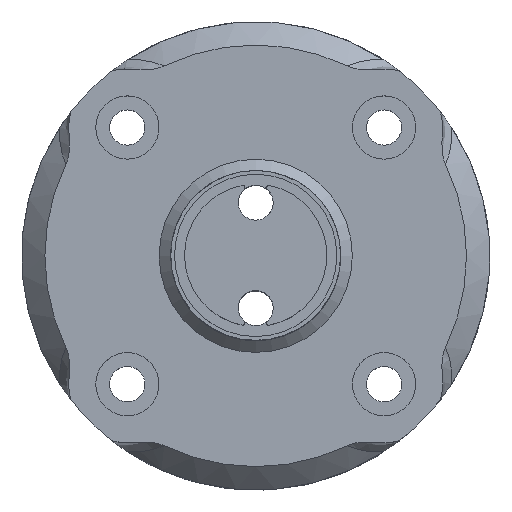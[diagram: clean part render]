
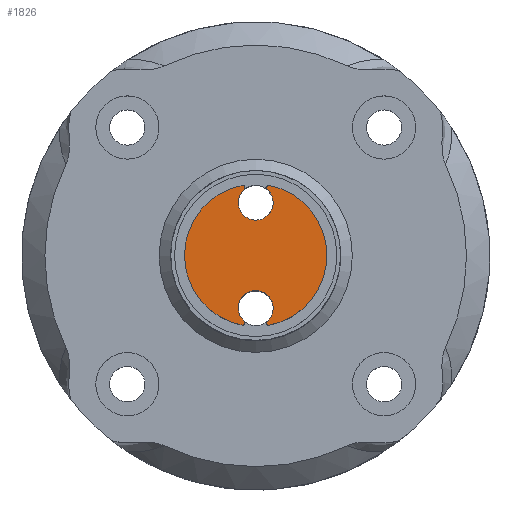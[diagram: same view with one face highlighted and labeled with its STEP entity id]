
A CAD part, top view. The second image highlights one B-rep face of the part: STEP entity #1826.
In plain terms, the highlighted planar face has unit normal (0, 0, 1).
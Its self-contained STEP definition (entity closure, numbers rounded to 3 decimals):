
#38=PLANE('',#2028);
#690=ORIENTED_EDGE('',*,*,#1029,.F.);
#691=ORIENTED_EDGE('',*,*,#1027,.T.);
#692=ORIENTED_EDGE('',*,*,#1034,.F.);
#693=ORIENTED_EDGE('',*,*,#1035,.F.);
#694=ORIENTED_EDGE('',*,*,#1036,.F.);
#695=ORIENTED_EDGE('',*,*,#1022,.T.);
#696=ORIENTED_EDGE('',*,*,#1033,.F.);
#697=ORIENTED_EDGE('',*,*,#1037,.F.);
#1022=EDGE_CURVE('',#1235,#1234,#1360,.T.);
#1027=EDGE_CURVE('',#1237,#1239,#1362,.T.);
#1029=EDGE_CURVE('',#1237,#1241,#1364,.F.);
#1033=EDGE_CURVE('',#1243,#1234,#1366,.F.);
#1034=EDGE_CURVE('',#1244,#1239,#1367,.F.);
#1035=EDGE_CURVE('',#1245,#1244,#1368,.T.);
#1036=EDGE_CURVE('',#1235,#1245,#1369,.F.);
#1037=EDGE_CURVE('',#1241,#1243,#1370,.T.);
#1234=VERTEX_POINT('',#3917);
#1235=VERTEX_POINT('',#3919);
#1237=VERTEX_POINT('',#3924);
#1239=VERTEX_POINT('',#3928);
#1241=VERTEX_POINT('',#3934);
#1243=VERTEX_POINT('',#3940);
#1244=VERTEX_POINT('',#3944);
#1245=VERTEX_POINT('',#3946);
#1360=CIRCLE('',#2018,6.08);
#1362=CIRCLE('',#2021,6.08);
#1364=CIRCLE('',#2024,0.2);
#1366=CIRCLE('',#2027,0.2);
#1367=CIRCLE('',#2029,0.2);
#1368=CIRCLE('',#2030,1.495);
#1369=CIRCLE('',#2031,0.2);
#1370=CIRCLE('',#2032,1.495);
#1508=EDGE_LOOP('',(#690,#691,#692,#693,#694,#695,#696,#697));
#1655=FACE_BOUND('',#1508,.T.);
#1826=ADVANCED_FACE('',(#1655),#38,.T.);
#2018=AXIS2_PLACEMENT_3D('',#3918,#2433,#2434);
#2021=AXIS2_PLACEMENT_3D('',#3929,#2442,#2443);
#2024=AXIS2_PLACEMENT_3D('',#3933,#2448,#2449);
#2027=AXIS2_PLACEMENT_3D('',#3941,#2456,#2457);
#2028=AXIS2_PLACEMENT_3D('',#3942,#2458,#2459);
#2029=AXIS2_PLACEMENT_3D('',#3943,#2460,#2461);
#2030=AXIS2_PLACEMENT_3D('',#3945,#2462,#2463);
#2031=AXIS2_PLACEMENT_3D('',#3947,#2464,#2465);
#2032=AXIS2_PLACEMENT_3D('',#3948,#2466,#2467);
#2433=DIRECTION('',(0.,0.,1.));
#2434=DIRECTION('',(1.,0.,0.));
#2442=DIRECTION('',(0.,0.,1.));
#2443=DIRECTION('',(1.,0.,0.));
#2448=DIRECTION('',(0.,0.,1.));
#2449=DIRECTION('',(1.,0.,0.));
#2456=DIRECTION('',(0.,0.,1.));
#2457=DIRECTION('',(1.,0.,0.));
#2458=DIRECTION('',(0.,0.,1.));
#2459=DIRECTION('',(1.,0.,0.));
#2460=DIRECTION('',(0.,0.,1.));
#2461=DIRECTION('',(1.,0.,0.));
#2462=DIRECTION('',(0.,0.,1.));
#2463=DIRECTION('',(1.,0.,0.));
#2464=DIRECTION('',(0.,0.,1.));
#2465=DIRECTION('',(1.,0.,0.));
#2466=DIRECTION('',(0.,0.,1.));
#2467=DIRECTION('',(1.,0.,0.));
#3917=CARTESIAN_POINT('',(1.158,5.969,30.5));
#3918=CARTESIAN_POINT('',(0.,0.,30.5));
#3919=CARTESIAN_POINT('',(1.158,-5.969,30.5));
#3924=CARTESIAN_POINT('',(-1.158,5.969,30.5));
#3928=CARTESIAN_POINT('',(-1.158,-5.969,30.5));
#3929=CARTESIAN_POINT('',(0.,0.,30.5));
#3933=CARTESIAN_POINT('',(-1.12,5.772,30.5));
#3934=CARTESIAN_POINT('',(-0.988,5.622,30.5));
#3940=CARTESIAN_POINT('',(0.988,5.622,30.5));
#3941=CARTESIAN_POINT('',(1.12,5.772,30.5));
#3942=CARTESIAN_POINT('',(0.,0.,30.5));
#3943=CARTESIAN_POINT('',(-1.12,-5.772,30.5));
#3944=CARTESIAN_POINT('',(-0.988,-5.622,30.5));
#3945=CARTESIAN_POINT('',(0.,-4.5,30.5));
#3946=CARTESIAN_POINT('',(0.988,-5.622,30.5));
#3947=CARTESIAN_POINT('',(1.12,-5.772,30.5));
#3948=CARTESIAN_POINT('',(0.,4.5,30.5));
